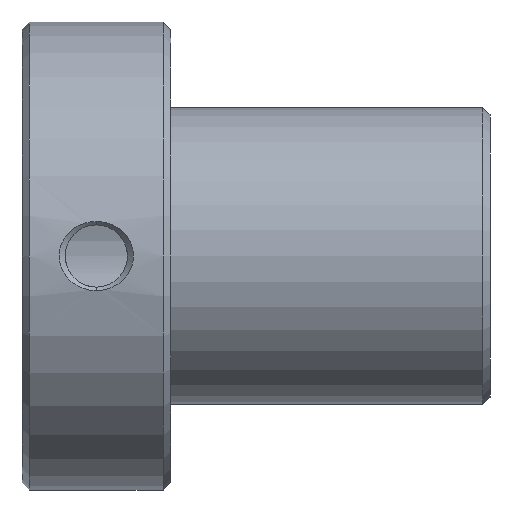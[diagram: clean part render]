
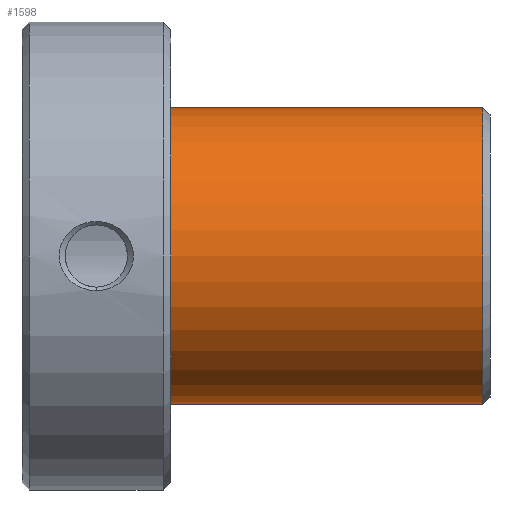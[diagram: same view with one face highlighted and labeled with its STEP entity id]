
A CAD part, front view. The second image highlights one B-rep face of the part: STEP entity #1598.
In plain terms, the highlighted cylindrical face has radius 20 mm (diameter 40 mm), a partial arc.
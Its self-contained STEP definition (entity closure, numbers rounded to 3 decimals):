
#832=CARTESIAN_POINT('Vertex',(20.,0.,-20.)) ;
#837=CARTESIAN_POINT('Axis2P3D Location',(20.,0.,0.)) ;
#841=CARTESIAN_POINT('Vertex',(20.,-20.,0.)) ;
#844=CARTESIAN_POINT('Axis2P3D Location',(20.,0.,0.)) ;
#848=CARTESIAN_POINT('Vertex',(20.,0.,20.)) ;
#1538=CARTESIAN_POINT('Line Origine',(63.,0.,20.)) ;
#1542=CARTESIAN_POINT('Vertex',(62.,0.,20.)) ;
#1556=CARTESIAN_POINT('Vertex',(62.,0.,-20.)) ;
#1559=CARTESIAN_POINT('Line Origine',(63.,0.,-20.)) ;
#1573=CARTESIAN_POINT('Axis2P3D Location',(63.,0.,0.)) ;
#1578=CARTESIAN_POINT('Axis2P3D Location',(62.,0.,0.)) ;
#1582=CARTESIAN_POINT('Vertex',(62.,-20.,0.)) ;
#1585=CARTESIAN_POINT('Axis2P3D Location',(62.,0.,0.)) ;
#838=DIRECTION('Axis2P3D Direction',(1.,0.,-0.)) ;
#845=DIRECTION('Axis2P3D Direction',(1.,0.,-0.)) ;
#1539=DIRECTION('Vector Direction',(-1.,0.,0.)) ;
#1560=DIRECTION('Vector Direction',(-1.,0.,0.)) ;
#1574=DIRECTION('Axis2P3D Direction',(-1.,-0.,-0.)) ;
#1575=DIRECTION('Axis2P3D XDirection',(0.,0.,-1.)) ;
#1579=DIRECTION('Axis2P3D Direction',(-1.,-0.,-0.)) ;
#1586=DIRECTION('Axis2P3D Direction',(-1.,-0.,-0.)) ;
#839=AXIS2_PLACEMENT_3D('Circle Axis2P3D',#837,#838,$) ;
#846=AXIS2_PLACEMENT_3D('Circle Axis2P3D',#844,#845,$) ;
#1576=AXIS2_PLACEMENT_3D('Cylinder Axis2P3D',#1573,#1574,#1575) ;
#1580=AXIS2_PLACEMENT_3D('Circle Axis2P3D',#1578,#1579,$) ;
#1587=AXIS2_PLACEMENT_3D('Circle Axis2P3D',#1585,#1586,$) ;
#1591=ORIENTED_EDGE('',*,*,#1563,.T.) ;
#1592=ORIENTED_EDGE('',*,*,#1584,.F.) ;
#1593=ORIENTED_EDGE('',*,*,#1589,.F.) ;
#1594=ORIENTED_EDGE('',*,*,#1544,.T.) ;
#1595=ORIENTED_EDGE('',*,*,#850,.T.) ;
#1596=ORIENTED_EDGE('',*,*,#843,.T.) ;
#1540=VECTOR('Line Direction',#1539,1.) ;
#1561=VECTOR('Line Direction',#1560,1.) ;
#1598=ADVANCED_FACE('345-24',(#1597),#1577,.T.) ;
#840=CIRCLE('generated circle',#839,20.) ;
#847=CIRCLE('generated circle',#846,20.) ;
#1581=CIRCLE('generated circle',#1580,20.) ;
#1588=CIRCLE('generated circle',#1587,20.) ;
#1577=CYLINDRICAL_SURFACE('generated cylinder',#1576,20.) ;
#843=EDGE_CURVE('',#842,#833,#840,.T.) ;
#850=EDGE_CURVE('',#849,#842,#847,.T.) ;
#1544=EDGE_CURVE('',#1543,#849,#1541,.T.) ;
#1563=EDGE_CURVE('',#833,#1557,#1562,.F.) ;
#1584=EDGE_CURVE('',#1583,#1557,#1581,.F.) ;
#1589=EDGE_CURVE('',#1543,#1583,#1588,.F.) ;
#1590=EDGE_LOOP('',(#1591,#1592,#1593,#1594,#1595,#1596)) ;
#1597=FACE_OUTER_BOUND('',#1590,.T.) ;
#1541=LINE('Line',#1538,#1540) ;
#1562=LINE('Line',#1559,#1561) ;
#833=VERTEX_POINT('',#832) ;
#842=VERTEX_POINT('',#841) ;
#849=VERTEX_POINT('',#848) ;
#1543=VERTEX_POINT('',#1542) ;
#1557=VERTEX_POINT('',#1556) ;
#1583=VERTEX_POINT('',#1582) ;
